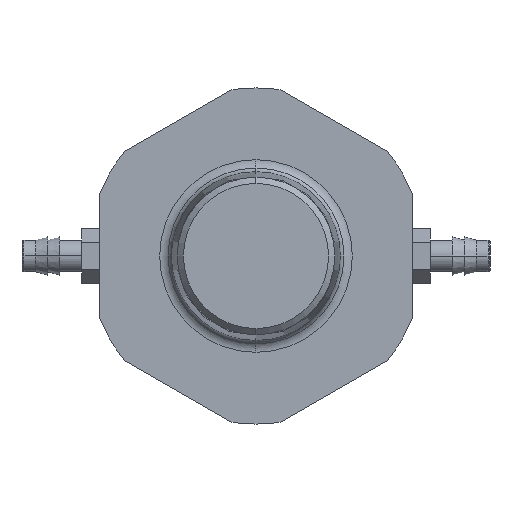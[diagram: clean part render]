
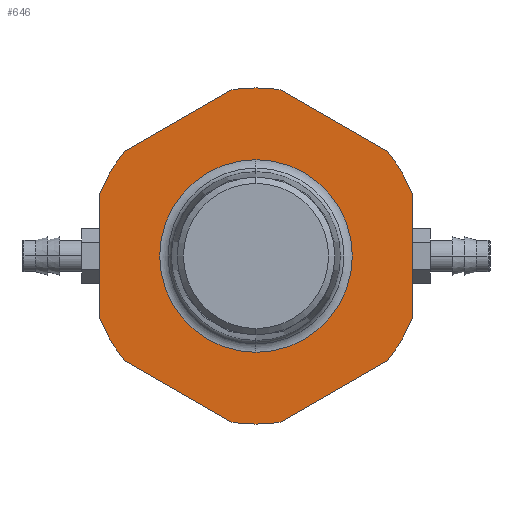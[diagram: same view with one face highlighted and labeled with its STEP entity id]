
A CAD part, left-side view. The second image highlights one B-rep face of the part: STEP entity #646.
In plain terms, the highlighted planar face has unit normal (-1, 0, 0).
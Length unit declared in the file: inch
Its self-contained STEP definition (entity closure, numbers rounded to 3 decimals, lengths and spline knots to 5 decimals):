
#203=CARTESIAN_POINT('',(-3.375,0.,0.));
#204=DIRECTION('',(-1.,0.,0.));
#205=DIRECTION('',(0.,0.143,-0.99));
#206=AXIS2_PLACEMENT_3D('',#203,#204,#205);
#208=DIRECTION('',(0.,-0.866,-0.5));
#209=VECTOR('',#208,0.64952);
#210=CARTESIAN_POINT('',(-3.375,0.6875,-0.54127));
#211=LINE('',#210,#209);
#212=CARTESIAN_POINT('',(-3.375,0.,0.));
#213=DIRECTION('',(-1.,0.,0.));
#214=DIRECTION('',(0.,0.866,-0.5));
#215=AXIS2_PLACEMENT_3D('',#212,#213,#214);
#217=CARTESIAN_POINT('',(-3.375,0.,0.));
#218=DIRECTION('',(-1.,0.,0.));
#219=DIRECTION('',(0.,0.929,-0.371));
#220=AXIS2_PLACEMENT_3D('',#217,#218,#219);
#222=DIRECTION('',(0.,0.,-1.));
#223=VECTOR('',#222,0.64952);
#224=CARTESIAN_POINT('',(-3.375,0.8125,0.32476));
#225=LINE('',#224,#223);
#226=CARTESIAN_POINT('',(-3.375,0.,0.));
#227=DIRECTION('',(-1.,0.,0.));
#228=DIRECTION('',(0.,0.866,0.5));
#229=AXIS2_PLACEMENT_3D('',#226,#227,#228);
#231=CARTESIAN_POINT('',(-3.375,0.,0.));
#232=DIRECTION('',(-1.,0.,0.));
#233=DIRECTION('',(0.,0.786,0.619));
#234=AXIS2_PLACEMENT_3D('',#231,#232,#233);
#236=DIRECTION('',(0.,0.866,-0.5));
#237=VECTOR('',#236,0.64952);
#238=CARTESIAN_POINT('',(-3.375,0.125,0.86603));
#239=LINE('',#238,#237);
#240=CARTESIAN_POINT('',(-3.375,0.,0.));
#241=DIRECTION('',(-1.,0.,0.));
#242=DIRECTION('',(0.,0.,1.));
#243=AXIS2_PLACEMENT_3D('',#240,#241,#242);
#245=CARTESIAN_POINT('',(-3.375,0.,0.));
#246=DIRECTION('',(-1.,0.,0.));
#247=DIRECTION('',(0.,-0.143,0.99));
#248=AXIS2_PLACEMENT_3D('',#245,#246,#247);
#250=DIRECTION('',(0.,0.866,0.5));
#251=VECTOR('',#250,0.64952);
#252=CARTESIAN_POINT('',(-3.375,-0.6875,0.54127));
#253=LINE('',#252,#251);
#254=CARTESIAN_POINT('',(-3.375,0.,0.));
#255=DIRECTION('',(-1.,0.,0.));
#256=DIRECTION('',(0.,-0.866,0.5));
#257=AXIS2_PLACEMENT_3D('',#254,#255,#256);
#259=CARTESIAN_POINT('',(-3.375,0.,0.));
#260=DIRECTION('',(-1.,0.,0.));
#261=DIRECTION('',(0.,-0.929,0.371));
#262=AXIS2_PLACEMENT_3D('',#259,#260,#261);
#264=DIRECTION('',(0.,0.,1.));
#265=VECTOR('',#264,0.64952);
#266=CARTESIAN_POINT('',(-3.375,-0.8125,-0.32476));
#267=LINE('',#266,#265);
#268=CARTESIAN_POINT('',(-3.375,0.,0.));
#269=DIRECTION('',(-1.,0.,0.));
#270=DIRECTION('',(0.,-0.866,-0.5));
#271=AXIS2_PLACEMENT_3D('',#268,#269,#270);
#273=CARTESIAN_POINT('',(-3.375,0.,0.));
#274=DIRECTION('',(-1.,0.,0.));
#275=DIRECTION('',(0.,-0.786,-0.619));
#276=AXIS2_PLACEMENT_3D('',#273,#274,#275);
#278=DIRECTION('',(0.,-0.866,0.5));
#279=VECTOR('',#278,0.64952);
#280=CARTESIAN_POINT('',(-3.375,-0.125,-0.86603));
#281=LINE('',#280,#279);
#282=CARTESIAN_POINT('',(-3.375,0.,0.));
#283=DIRECTION('',(-1.,0.,0.));
#284=DIRECTION('',(0.,0.,-1.));
#285=AXIS2_PLACEMENT_3D('',#282,#283,#284);
#287=CARTESIAN_POINT('',(-3.375,0.,0.));
#288=DIRECTION('',(1.,0.,0.));
#289=DIRECTION('',(0.,0.,1.));
#290=AXIS2_PLACEMENT_3D('',#287,#288,#289);
#292=CARTESIAN_POINT('',(-3.375,0.,0.));
#293=DIRECTION('',(1.,0.,0.));
#294=DIRECTION('',(0.,0.,-1.));
#295=AXIS2_PLACEMENT_3D('',#292,#293,#294);
#505=CARTESIAN_POINT('',(-3.375,0.,-0.875));
#506=CARTESIAN_POINT('',(-3.375,-0.125,-0.86603));
#507=VERTEX_POINT('',#505);
#508=VERTEX_POINT('',#506);
#509=CARTESIAN_POINT('',(-3.375,0.125,-0.86603));
#510=VERTEX_POINT('',#509);
#515=CARTESIAN_POINT('',(-3.375,-0.6875,-0.54127));
#516=VERTEX_POINT('',#515);
#517=CARTESIAN_POINT('',(-3.375,0.6875,-0.54127));
#518=VERTEX_POINT('',#517);
#523=CARTESIAN_POINT('',(-3.375,-0.75777,-0.4375));
#524=CARTESIAN_POINT('',(-3.375,-0.8125,-0.32476));
#525=VERTEX_POINT('',#523);
#526=VERTEX_POINT('',#524);
#527=CARTESIAN_POINT('',(-3.375,0.75777,-0.4375));
#528=VERTEX_POINT('',#527);
#529=CARTESIAN_POINT('',(-3.375,0.8125,-0.32476));
#530=VERTEX_POINT('',#529);
#537=CARTESIAN_POINT('',(-3.375,-0.8125,0.32476));
#538=VERTEX_POINT('',#537);
#539=CARTESIAN_POINT('',(-3.375,0.8125,0.32476));
#540=VERTEX_POINT('',#539);
#547=CARTESIAN_POINT('',(-3.375,-0.75777,0.4375));
#548=CARTESIAN_POINT('',(-3.375,-0.6875,0.54127));
#549=VERTEX_POINT('',#547);
#550=VERTEX_POINT('',#548);
#551=CARTESIAN_POINT('',(-3.375,0.75777,0.4375));
#552=VERTEX_POINT('',#551);
#553=CARTESIAN_POINT('',(-3.375,0.6875,0.54127));
#554=VERTEX_POINT('',#553);
#561=CARTESIAN_POINT('',(-3.375,-0.125,0.86603));
#562=VERTEX_POINT('',#561);
#563=CARTESIAN_POINT('',(-3.375,0.125,0.86603));
#564=VERTEX_POINT('',#563);
#571=CARTESIAN_POINT('',(-3.375,0.,0.875));
#572=VERTEX_POINT('',#571);
#585=CARTESIAN_POINT('',(-3.375,0.,0.50146));
#586=VERTEX_POINT('',#585);
#587=CARTESIAN_POINT('',(-3.375,0.,-0.50146));
#588=VERTEX_POINT('',#587);
#597=CARTESIAN_POINT('',(-3.375,0.,0.));
#598=DIRECTION('',(-1.,0.,0.));
#599=DIRECTION('',(0.,0.,1.));
#600=AXIS2_PLACEMENT_3D('',#597,#598,#599);
#601=PLANE('',#600);
#603=ORIENTED_EDGE('',*,*,#602,.F.);
#605=ORIENTED_EDGE('',*,*,#604,.F.);
#607=ORIENTED_EDGE('',*,*,#606,.F.);
#609=ORIENTED_EDGE('',*,*,#608,.F.);
#611=ORIENTED_EDGE('',*,*,#610,.F.);
#613=ORIENTED_EDGE('',*,*,#612,.F.);
#615=ORIENTED_EDGE('',*,*,#614,.F.);
#617=ORIENTED_EDGE('',*,*,#616,.F.);
#619=ORIENTED_EDGE('',*,*,#618,.F.);
#621=ORIENTED_EDGE('',*,*,#620,.F.);
#623=ORIENTED_EDGE('',*,*,#622,.F.);
#625=ORIENTED_EDGE('',*,*,#624,.F.);
#627=ORIENTED_EDGE('',*,*,#626,.F.);
#629=ORIENTED_EDGE('',*,*,#628,.F.);
#631=ORIENTED_EDGE('',*,*,#630,.F.);
#633=ORIENTED_EDGE('',*,*,#632,.F.);
#635=ORIENTED_EDGE('',*,*,#634,.F.);
#637=ORIENTED_EDGE('',*,*,#636,.F.);
#638=EDGE_LOOP('',(#603,#605,#607,#609,#611,#613,#615,#617,#619,#621,#623,#625,
#627,#629,#631,#633,#635,#637));
#639=FACE_OUTER_BOUND('',#638,.F.);
#641=ORIENTED_EDGE('',*,*,#640,.F.);
#643=ORIENTED_EDGE('',*,*,#642,.F.);
#644=EDGE_LOOP('',(#641,#643));
#645=FACE_BOUND('',#644,.F.);
#207=CIRCLE('',#206,0.875);
#216=CIRCLE('',#215,0.875);
#221=CIRCLE('',#220,0.875);
#230=CIRCLE('',#229,0.875);
#235=CIRCLE('',#234,0.875);
#244=CIRCLE('',#243,0.875);
#249=CIRCLE('',#248,0.875);
#258=CIRCLE('',#257,0.875);
#263=CIRCLE('',#262,0.875);
#272=CIRCLE('',#271,0.875);
#277=CIRCLE('',#276,0.875);
#286=CIRCLE('',#285,0.875);
#291=CIRCLE('',#290,0.50146);
#296=CIRCLE('',#295,0.50146);
#602=EDGE_CURVE('',#510,#507,#207,.T.);
#604=EDGE_CURVE('',#518,#510,#211,.T.);
#606=EDGE_CURVE('',#528,#518,#216,.T.);
#608=EDGE_CURVE('',#530,#528,#221,.T.);
#610=EDGE_CURVE('',#540,#530,#225,.T.);
#612=EDGE_CURVE('',#552,#540,#230,.T.);
#614=EDGE_CURVE('',#554,#552,#235,.T.);
#616=EDGE_CURVE('',#564,#554,#239,.T.);
#618=EDGE_CURVE('',#572,#564,#244,.T.);
#620=EDGE_CURVE('',#562,#572,#249,.T.);
#622=EDGE_CURVE('',#550,#562,#253,.T.);
#624=EDGE_CURVE('',#549,#550,#258,.T.);
#626=EDGE_CURVE('',#538,#549,#263,.T.);
#628=EDGE_CURVE('',#526,#538,#267,.T.);
#630=EDGE_CURVE('',#525,#526,#272,.T.);
#632=EDGE_CURVE('',#516,#525,#277,.T.);
#634=EDGE_CURVE('',#508,#516,#281,.T.);
#636=EDGE_CURVE('',#507,#508,#286,.T.);
#640=EDGE_CURVE('',#586,#588,#291,.T.);
#642=EDGE_CURVE('',#588,#586,#296,.T.);
#646=ADVANCED_FACE('',(#639,#645),#601,.T.);
